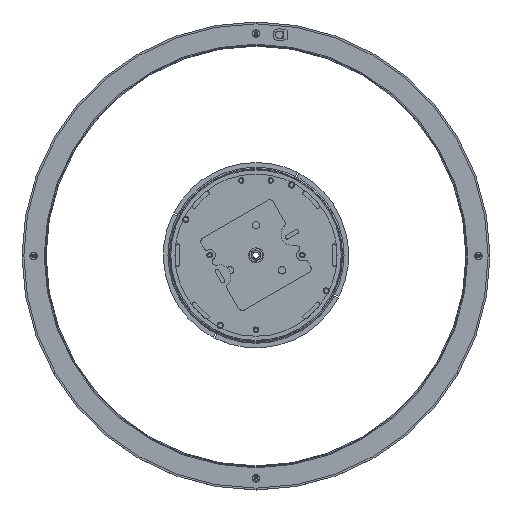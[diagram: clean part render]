
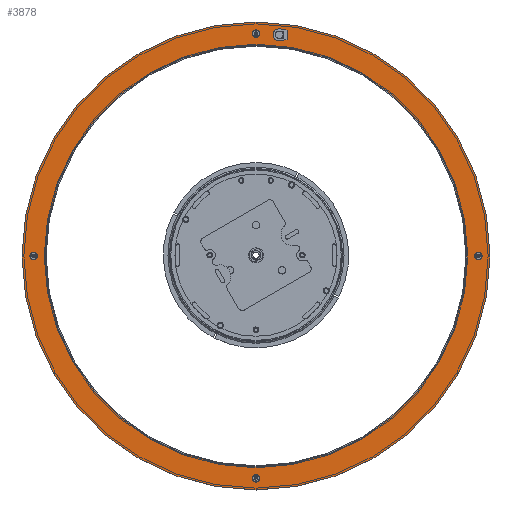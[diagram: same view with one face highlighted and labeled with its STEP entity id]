
A CAD part, top view. The second image highlights one B-rep face of the part: STEP entity #3878.
In plain terms, the highlighted planar face has unit normal (0, 0, 1).
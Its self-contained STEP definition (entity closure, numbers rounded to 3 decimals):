
#21 = AXIS2_PLACEMENT_3D ( 'NONE', #1885, #7140, #11549 ) ;
#29 = PLANE ( 'NONE',  #21 ) ;
#401 = CIRCLE ( 'NONE', #1725, 227.5 ) ;
#529 = EDGE_CURVE ( 'NONE', #6390, #12025, #597, .T. ) ;
#597 = CIRCLE ( 'NONE', #7879, 2.1 ) ;
#620 = CIRCLE ( 'NONE', #3708, 252.5 ) ;
#626 = ORIENTED_EDGE ( 'NONE', *, *, #1936, .F. ) ;
#721 = AXIS2_PLACEMENT_3D ( 'NONE', #2428, #6585, #8861 ) ;
#725 = DIRECTION ( 'NONE',  ( 0., 0., 1. ) ) ;
#740 = CARTESIAN_POINT ( 'NONE',  ( -252.5, 0., -500. ) ) ;
#781 = DIRECTION ( 'NONE',  ( 0., 0., 1. ) ) ;
#832 = ORIENTED_EDGE ( 'NONE', *, *, #2652, .F. ) ;
#845 = FACE_OUTER_BOUND ( 'NONE', #11590, .T. ) ;
#879 = CARTESIAN_POINT ( 'NONE',  ( -2.1, -240., -500. ) ) ;
#881 = CARTESIAN_POINT ( 'NONE',  ( -227.5, 0., -500. ) ) ;
#912 = FACE_BOUND ( 'NONE', #4283, .T. ) ;
#933 = CARTESIAN_POINT ( 'NONE',  ( -2.1, 240., -500. ) ) ;
#1056 = CARTESIAN_POINT ( 'NONE',  ( 237.9, 0., -500. ) ) ;
#1093 = VERTEX_POINT ( 'NONE', #740 ) ;
#1144 = AXIS2_PLACEMENT_3D ( 'NONE', #12286, #4009, #10227 ) ;
#1164 = ORIENTED_EDGE ( 'NONE', *, *, #12314, .F. ) ;
#1168 = DIRECTION ( 'NONE',  ( 0., 0., 1. ) ) ;
#1244 = ORIENTED_EDGE ( 'NONE', *, *, #7280, .F. ) ;
#1444 = VERTEX_POINT ( 'NONE', #7716 ) ;
#1508 = CARTESIAN_POINT ( 'NONE',  ( 2.1, -240., -500. ) ) ;
#1690 = ORIENTED_EDGE ( 'NONE', *, *, #13297, .F. ) ;
#1698 = DIRECTION ( 'NONE',  ( 0., 0., 1. ) ) ;
#1725 = AXIS2_PLACEMENT_3D ( 'NONE', #2800, #725, #4942 ) ;
#1745 = DIRECTION ( 'NONE',  ( 0., 0., 1. ) ) ;
#1834 = DIRECTION ( 'NONE',  ( -1., 0., 0. ) ) ;
#1885 = CARTESIAN_POINT ( 'NONE',  ( 0., 0., -500. ) ) ;
#1936 = EDGE_CURVE ( 'NONE', #10544, #8833, #10273, .T. ) ;
#1943 = DIRECTION ( 'NONE',  ( 0., 0., 1. ) ) ;
#1990 = DIRECTION ( 'NONE',  ( 0., 0., 1. ) ) ;
#2068 = CARTESIAN_POINT ( 'NONE',  ( -240., 0., -500. ) ) ;
#2215 = CARTESIAN_POINT ( 'NONE',  ( 242.1, 0., -500. ) ) ;
#2428 = CARTESIAN_POINT ( 'NONE',  ( 25., 238.694, -500. ) ) ;
#2652 = EDGE_CURVE ( 'NONE', #8599, #13405, #6890, .T. ) ;
#2800 = CARTESIAN_POINT ( 'NONE',  ( 0., 0., -500. ) ) ;
#2921 = FACE_BOUND ( 'NONE', #10994, .T. ) ;
#2988 = FACE_BOUND ( 'NONE', #9951, .T. ) ;
#3134 = EDGE_LOOP ( 'NONE', ( #12775, #12966 ) ) ;
#3181 = CIRCLE ( 'NONE', #12444, 2.1 ) ;
#3359 = AXIS2_PLACEMENT_3D ( 'NONE', #2068, #11396, #8438 ) ;
#3708 = AXIS2_PLACEMENT_3D ( 'NONE', #5246, #1990, #5310 ) ;
#3877 = ORIENTED_EDGE ( 'NONE', *, *, #4579, .T. ) ;
#3878 = ADVANCED_FACE ( 'NONE', ( #12515, #2921, #9420, #6164, #2988, #845, #912 ), #29, .T. ) ;
#4009 = DIRECTION ( 'NONE',  ( 0., 0., 1. ) ) ;
#4096 = DIRECTION ( 'NONE',  ( 0., 0., 1. ) ) ;
#4149 = VERTEX_POINT ( 'NONE', #879 ) ;
#4283 = EDGE_LOOP ( 'NONE', ( #7134, #626 ) ) ;
#4414 = CIRCLE ( 'NONE', #11449, 2.1 ) ;
#4547 = CIRCLE ( 'NONE', #8956, 2.1 ) ;
#4579 = EDGE_CURVE ( 'NONE', #1444, #1093, #620, .T. ) ;
#4769 = AXIS2_PLACEMENT_3D ( 'NONE', #4998, #1745, #11133 ) ;
#4942 = DIRECTION ( 'NONE',  ( -1., 0., 0. ) ) ;
#4998 = CARTESIAN_POINT ( 'NONE',  ( 0., 0., -500. ) ) ;
#5018 = CARTESIAN_POINT ( 'NONE',  ( 0., 0., -500. ) ) ;
#5035 = DIRECTION ( 'NONE',  ( -1., 0., 0. ) ) ;
#5154 = DIRECTION ( 'NONE',  ( 0., 0., 1. ) ) ;
#5246 = CARTESIAN_POINT ( 'NONE',  ( 0., 0., -500. ) ) ;
#5310 = DIRECTION ( 'NONE',  ( -1., 0., 0. ) ) ;
#5522 = DIRECTION ( 'NONE',  ( 0., 0., 1. ) ) ;
#5836 = ORIENTED_EDGE ( 'NONE', *, *, #529, .F. ) ;
#5878 = EDGE_CURVE ( 'NONE', #8833, #10544, #401, .T. ) ;
#5944 = CARTESIAN_POINT ( 'NONE',  ( 227.5, 0., -500. ) ) ;
#5965 = AXIS2_PLACEMENT_3D ( 'NONE', #7109, #10278, #5035 ) ;
#6164 = FACE_BOUND ( 'NONE', #3134, .T. ) ;
#6390 = VERTEX_POINT ( 'NONE', #11682 ) ;
#6439 = CARTESIAN_POINT ( 'NONE',  ( 30.25, 238.694, -500. ) ) ;
#6585 = DIRECTION ( 'NONE',  ( 0., 0., 1. ) ) ;
#6703 = CARTESIAN_POINT ( 'NONE',  ( 240., 0., -500. ) ) ;
#6803 = CARTESIAN_POINT ( 'NONE',  ( 0., -240., -500. ) ) ;
#6890 = CIRCLE ( 'NONE', #1144, 2.1 ) ;
#6951 = EDGE_CURVE ( 'NONE', #12025, #6390, #4414, .T. ) ;
#6961 = CARTESIAN_POINT ( 'NONE',  ( 0., 240., -500. ) ) ;
#7109 = CARTESIAN_POINT ( 'NONE',  ( 0., -240., -500. ) ) ;
#7134 = ORIENTED_EDGE ( 'NONE', *, *, #5878, .F. ) ;
#7140 = DIRECTION ( 'NONE',  ( 0., 0., 1. ) ) ;
#7280 = EDGE_CURVE ( 'NONE', #9120, #4149, #9062, .T. ) ;
#7716 = CARTESIAN_POINT ( 'NONE',  ( 252.5, 0., -500. ) ) ;
#7738 = DIRECTION ( 'NONE',  ( -1., 0., 0. ) ) ;
#7859 = ORIENTED_EDGE ( 'NONE', *, *, #8255, .F. ) ;
#7879 = AXIS2_PLACEMENT_3D ( 'NONE', #6961, #1698, #10458 ) ;
#7948 = ORIENTED_EDGE ( 'NONE', *, *, #8764, .F. ) ;
#8025 = DIRECTION ( 'NONE',  ( -1., 0., 0. ) ) ;
#8222 = CIRCLE ( 'NONE', #9768, 2.1 ) ;
#8255 = EDGE_CURVE ( 'NONE', #13405, #8599, #8222, .T. ) ;
#8438 = DIRECTION ( 'NONE',  ( -1., 0., 0. ) ) ;
#8491 = EDGE_LOOP ( 'NONE', ( #1164, #1244 ) ) ;
#8599 = VERTEX_POINT ( 'NONE', #1056 ) ;
#8711 = DIRECTION ( 'NONE',  ( -1., 0., 0. ) ) ;
#8718 = VERTEX_POINT ( 'NONE', #10720 ) ;
#8764 = EDGE_CURVE ( 'NONE', #11320, #9901, #9523, .T. ) ;
#8833 = VERTEX_POINT ( 'NONE', #5944 ) ;
#8861 = DIRECTION ( 'NONE',  ( -1., 0., 0. ) ) ;
#8881 = DIRECTION ( 'NONE',  ( -1., 0., 0. ) ) ;
#8956 = AXIS2_PLACEMENT_3D ( 'NONE', #6803, #781, #8881 ) ;
#9004 = EDGE_CURVE ( 'NONE', #12572, #8718, #11950, .T. ) ;
#9062 = CIRCLE ( 'NONE', #5965, 2.1 ) ;
#9120 = VERTEX_POINT ( 'NONE', #1508 ) ;
#9268 = CARTESIAN_POINT ( 'NONE',  ( -240., 0., -500. ) ) ;
#9420 = FACE_BOUND ( 'NONE', #8491, .T. ) ;
#9523 = CIRCLE ( 'NONE', #721, 5.25 ) ;
#9768 = AXIS2_PLACEMENT_3D ( 'NONE', #6703, #5522, #8711 ) ;
#9831 = AXIS2_PLACEMENT_3D ( 'NONE', #5018, #5154, #1834 ) ;
#9901 = VERTEX_POINT ( 'NONE', #11055 ) ;
#9951 = EDGE_LOOP ( 'NONE', ( #12367, #5836 ) ) ;
#10055 = EDGE_CURVE ( 'NONE', #8718, #12572, #3181, .T. ) ;
#10227 = DIRECTION ( 'NONE',  ( -1., 0., 0. ) ) ;
#10273 = CIRCLE ( 'NONE', #4769, 227.5 ) ;
#10278 = DIRECTION ( 'NONE',  ( 0., 0., 1. ) ) ;
#10458 = DIRECTION ( 'NONE',  ( -1., 0., 0. ) ) ;
#10507 = AXIS2_PLACEMENT_3D ( 'NONE', #10511, #4096, #12779 ) ;
#10511 = CARTESIAN_POINT ( 'NONE',  ( 25., 238.694, -500. ) ) ;
#10544 = VERTEX_POINT ( 'NONE', #881 ) ;
#10720 = CARTESIAN_POINT ( 'NONE',  ( -242.1, 0., -500. ) ) ;
#10994 = EDGE_LOOP ( 'NONE', ( #832, #7859 ) ) ;
#11055 = CARTESIAN_POINT ( 'NONE',  ( 19.75, 238.694, -500. ) ) ;
#11133 = DIRECTION ( 'NONE',  ( -1., 0., 0. ) ) ;
#11320 = VERTEX_POINT ( 'NONE', #6439 ) ;
#11396 = DIRECTION ( 'NONE',  ( 0., 0., 1. ) ) ;
#11449 = AXIS2_PLACEMENT_3D ( 'NONE', #11740, #1168, #7738 ) ;
#11549 = DIRECTION ( 'NONE',  ( -1., 0., 0. ) ) ;
#11590 = EDGE_LOOP ( 'NONE', ( #3877, #13192 ) ) ;
#11593 = CARTESIAN_POINT ( 'NONE',  ( -237.9, 0., -500. ) ) ;
#11682 = CARTESIAN_POINT ( 'NONE',  ( 2.1, 240., -500. ) ) ;
#11740 = CARTESIAN_POINT ( 'NONE',  ( 0., 240., -500. ) ) ;
#11950 = CIRCLE ( 'NONE', #3359, 2.1 ) ;
#12025 = VERTEX_POINT ( 'NONE', #933 ) ;
#12029 = EDGE_CURVE ( 'NONE', #1093, #1444, #13567, .T. ) ;
#12286 = CARTESIAN_POINT ( 'NONE',  ( 240., 0., -500. ) ) ;
#12314 = EDGE_CURVE ( 'NONE', #4149, #9120, #4547, .T. ) ;
#12367 = ORIENTED_EDGE ( 'NONE', *, *, #6951, .F. ) ;
#12444 = AXIS2_PLACEMENT_3D ( 'NONE', #9268, #1943, #8025 ) ;
#12515 = FACE_BOUND ( 'NONE', #13591, .T. ) ;
#12572 = VERTEX_POINT ( 'NONE', #11593 ) ;
#12698 = CIRCLE ( 'NONE', #10507, 5.25 ) ;
#12775 = ORIENTED_EDGE ( 'NONE', *, *, #10055, .F. ) ;
#12779 = DIRECTION ( 'NONE',  ( -1., 0., 0. ) ) ;
#12966 = ORIENTED_EDGE ( 'NONE', *, *, #9004, .F. ) ;
#13192 = ORIENTED_EDGE ( 'NONE', *, *, #12029, .T. ) ;
#13297 = EDGE_CURVE ( 'NONE', #9901, #11320, #12698, .T. ) ;
#13405 = VERTEX_POINT ( 'NONE', #2215 ) ;
#13567 = CIRCLE ( 'NONE', #9831, 252.5 ) ;
#13591 = EDGE_LOOP ( 'NONE', ( #1690, #7948 ) ) ;
